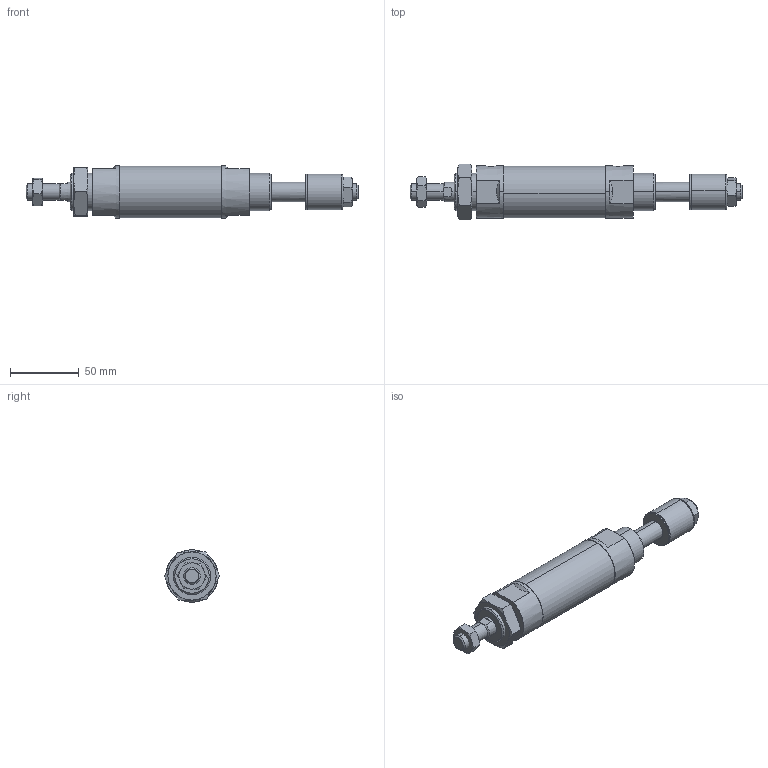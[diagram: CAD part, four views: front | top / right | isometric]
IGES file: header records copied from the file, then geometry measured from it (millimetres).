
Start section: SolidWorks IGES file using analytic representation for surfaces
Global section: file name: C:\Users\Toshiba\Desktop\JGA7-32-25-N.IGS; native system: SolidWorks 2014; preprocessor: SolidWorks 2014; author: Toshiba; date: 160420.095738; units: millimetre
Bounding box: 241 x 40.4 x 38 mm (x, y, z)
Surface area: 37278 mm2 (no closed solid volume)
Topology: 0 solids, 0 shells, 149 faces, 2548 edges, 2544 vertices
Faces by surface type: bspline 89, revolution 60
